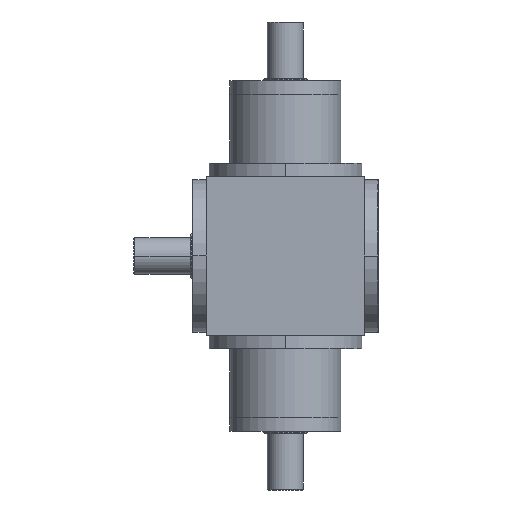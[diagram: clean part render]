
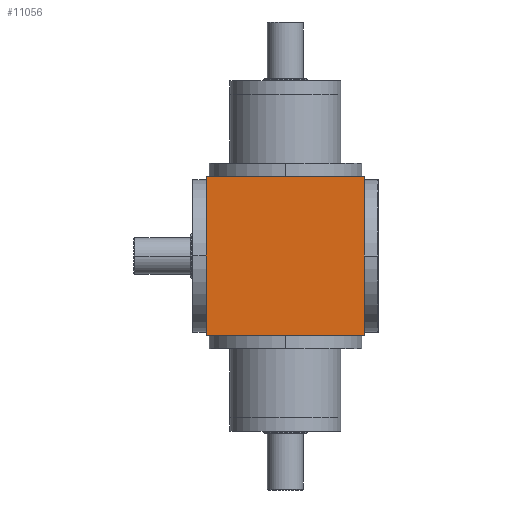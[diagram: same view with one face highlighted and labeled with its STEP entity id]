
A CAD part, front view. The second image highlights one B-rep face of the part: STEP entity #11056.
In plain terms, the highlighted planar face has unit normal (0, -1, 0).
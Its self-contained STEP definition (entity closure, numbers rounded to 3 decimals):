
#339 = ORIENTED_EDGE ( 'NONE', *, *, #18453, .T. ) ;
#498 = VERTEX_POINT ( 'NONE', #571 ) ;
#571 = CARTESIAN_POINT ( 'NONE',  ( -69.9, -70., -69.9 ) ) ;
#2381 = VECTOR ( 'NONE', #14038, 1000. ) ;
#2708 = CARTESIAN_POINT ( 'NONE',  ( -69.9, -70., 70. ) ) ;
#3512 = ORIENTED_EDGE ( 'NONE', *, *, #12714, .T. ) ;
#3710 = VECTOR ( 'NONE', #13644, 1000. ) ;
#4276 = PLANE ( 'NONE',  #7858 ) ;
#5195 = LINE ( 'NONE', #7831, #3710 ) ;
#5925 = ORIENTED_EDGE ( 'NONE', *, *, #20521, .T. ) ;
#5957 = DIRECTION ( 'NONE',  ( 0., 1., 0. ) ) ;
#6948 = VECTOR ( 'NONE', #21581, 1000. ) ;
#7831 = CARTESIAN_POINT ( 'NONE',  ( 69.9, -70., 70. ) ) ;
#7858 = AXIS2_PLACEMENT_3D ( 'NONE', #23090, #5957, #21067 ) ;
#8216 = CARTESIAN_POINT ( 'NONE',  ( -70., -70., 69.9 ) ) ;
#8889 = CARTESIAN_POINT ( 'NONE',  ( 70., -70., -69.9 ) ) ;
#10860 = ORIENTED_EDGE ( 'NONE', *, *, #14491, .T. ) ;
#11056 = ADVANCED_FACE ( 'NONE', ( #18842 ), #4276, .F. ) ;
#11950 = EDGE_LOOP ( 'NONE', ( #339, #5925, #3512, #10860 ) ) ;
#12701 = DIRECTION ( 'NONE',  ( 1., 0., 0. ) ) ;
#12714 = EDGE_CURVE ( 'NONE', #12799, #24201, #22170, .T. ) ;
#12799 = VERTEX_POINT ( 'NONE', #15836 ) ;
#12838 = LINE ( 'NONE', #2708, #2381 ) ;
#12926 = CARTESIAN_POINT ( 'NONE',  ( 69.9, -70., -69.9 ) ) ;
#13644 = DIRECTION ( 'NONE',  ( 0., 0., 1. ) ) ;
#14038 = DIRECTION ( 'NONE',  ( 0., 0., -1. ) ) ;
#14491 = EDGE_CURVE ( 'NONE', #24201, #498, #12838, .T. ) ;
#15836 = CARTESIAN_POINT ( 'NONE',  ( 69.9, -70., 69.9 ) ) ;
#16859 = VECTOR ( 'NONE', #12701, 1000. ) ;
#17505 = CARTESIAN_POINT ( 'NONE',  ( -69.9, -70., 69.9 ) ) ;
#18453 = EDGE_CURVE ( 'NONE', #498, #23797, #22814, .T. ) ;
#18842 = FACE_OUTER_BOUND ( 'NONE', #11950, .T. ) ;
#20521 = EDGE_CURVE ( 'NONE', #23797, #12799, #5195, .T. ) ;
#21067 = DIRECTION ( 'NONE',  ( 0., 0., 1. ) ) ;
#21581 = DIRECTION ( 'NONE',  ( -1., 0., 0. ) ) ;
#22170 = LINE ( 'NONE', #8216, #6948 ) ;
#22814 = LINE ( 'NONE', #8889, #16859 ) ;
#23090 = CARTESIAN_POINT ( 'NONE',  ( 70., -70., 70. ) ) ;
#23797 = VERTEX_POINT ( 'NONE', #12926 ) ;
#24201 = VERTEX_POINT ( 'NONE', #17505 ) ;
